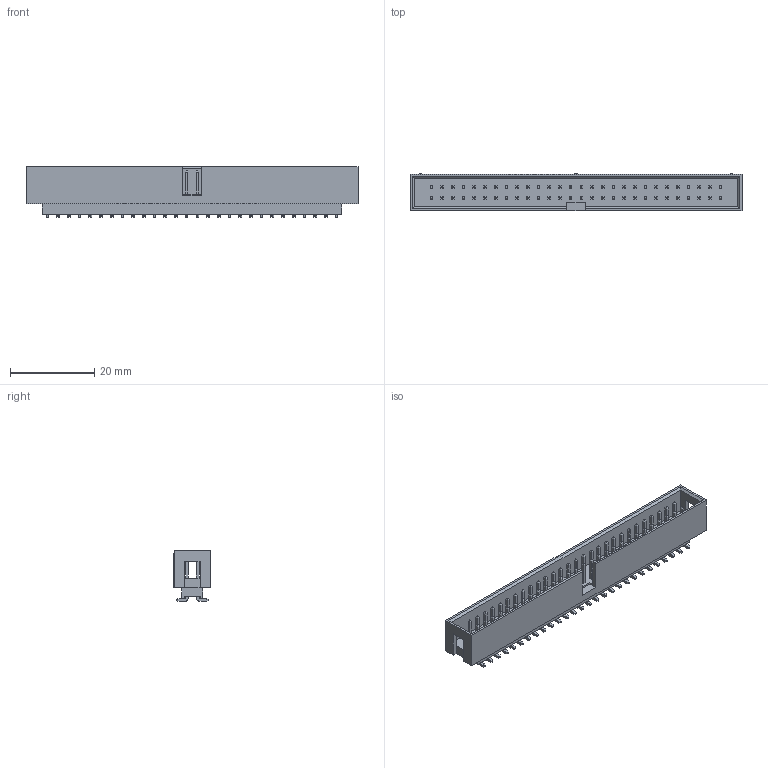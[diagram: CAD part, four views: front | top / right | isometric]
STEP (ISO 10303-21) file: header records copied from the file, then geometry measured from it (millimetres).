
FILE_DESCRIPTION (( 'STEP AP203' ), '1' );
FILE_NAME ('HC-JN254-2-28-S-11.3-XX (潠籟2.54 樓詢 邧齬 泂え-HCTL).STEP', '2026-05-05T06:25:24', ( '' ), ( '' ), 'SwSTEP 2.0', 'SolidWorks 2025', '' );
FILE_SCHEMA (( 'CONFIG_CONTROL_DESIGN' ));
Length unit declared in the file: millimetre
Products named in the file (1): HC-JN254-2-28-S-11.3-XX (简牛2.54 加高 双排 贴片-HCTL)
Bounding box: 78.72 x 8.9 x 12 mm (x, y, z)
Volume: 3524.9 mm3; surface area: 5735.1 mm2
Topology: 1 solids, 55 shells, 1780 faces, 4167 edges, 2546 vertices
Faces by surface type: plane 1665, cylinder 115
Entity records: 49270 total; most frequent: CARTESIAN_POINT 8518, ORIENTED_EDGE 8334, DIRECTION 7951, EDGE_CURVE 4167, LINE 3929, VECTOR 3929, VERTEX_POINT 2546, AXIS2_PLACEMENT_3D 2011
